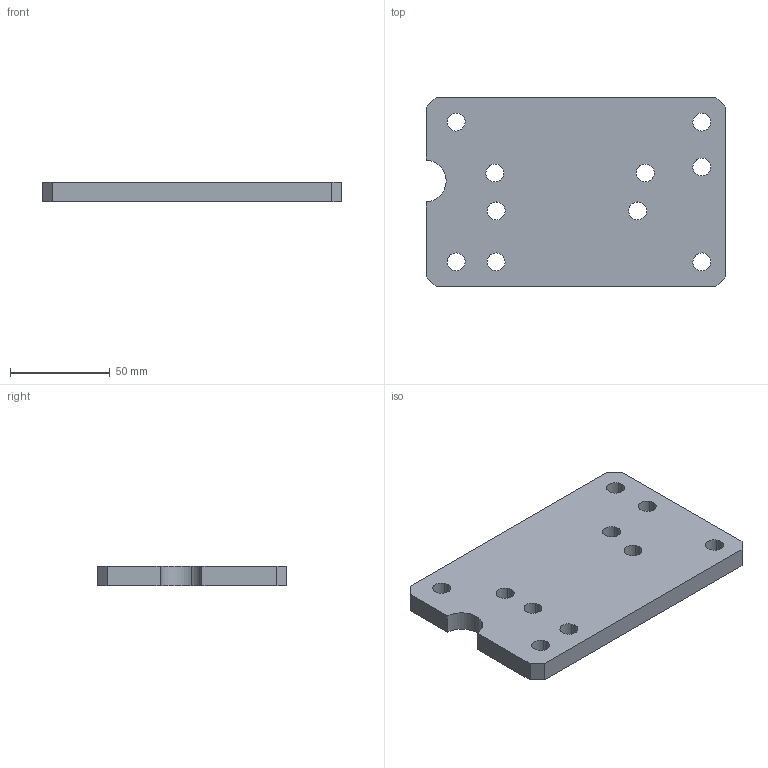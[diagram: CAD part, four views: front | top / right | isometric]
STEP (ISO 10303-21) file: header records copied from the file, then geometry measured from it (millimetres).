
FILE_DESCRIPTION(('CATIA V5 STEP Exchange','CAx-IF Rec.Pracs.--- Model Styling and Organization---1.5--- 2016-08-15','CAx-IF Rec.Pracs.---Supplemental Geometry---1.0---2011-11-01','CAx-IF Rec.Pracs.--- Composite Materials ---1.1---2010-07-15','CAx-IF Rec.Pracs.---External References---2.1---2005-01-19'),'2;1');
FILE_NAME('E:\WAT\Sprezarka\121_00_00_Tlocznik1\Tlocznik1_KPL\Tlocznik1_stp\121_03_56_Przekladka.stp','2023-08-01T08:49:44+00:00',('none'),('none'),'CATIA Version 5-6 Release 2022 SP3','CATIA V5 STEP AP214 v2','none');
FILE_SCHEMA(('AUTOMOTIVE_DESIGN { 1 0 10303 214 1 1 1 1 }'));
Length unit declared in the file: millimetre
Products named in the file (1): 121_03_56_Przekladka
Bounding box: 150 x 95 x 10 mm (x, y, z)
Volume: 134011.4 mm3; surface area: 34522.7 mm2
Topology: 1 solids, 1 shells, 33 faces, 93 edges, 62 vertices
Faces by surface type: cylinder 22, plane 11
Entity records: 1094 total; most frequent: ORIENTED_EDGE 186, CARTESIAN_POINT 177, DIRECTION 135, EDGE_CURVE 93, AXIS2_PLACEMENT_3D 66, VERTEX_POINT 62, EDGE_LOOP 53, VECTOR 49
